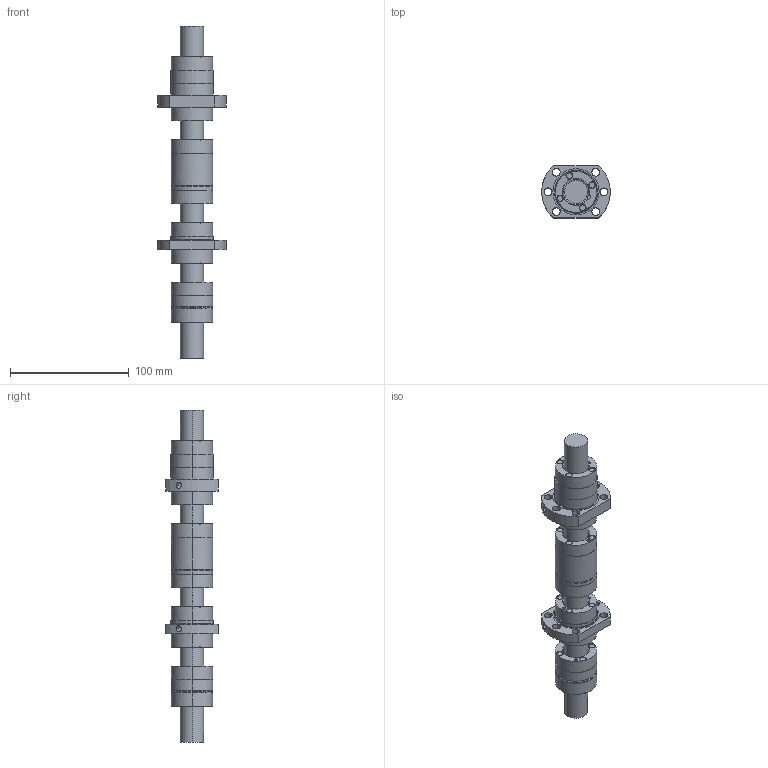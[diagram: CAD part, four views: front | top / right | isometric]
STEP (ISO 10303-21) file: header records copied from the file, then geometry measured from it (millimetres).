
FILE_DESCRIPTION(('Creo Elements/Direct Modeling STEP Export'),'2;1');
FILE_NAME('HSB-KGT-M-2020RH-4g.stp','2015-05-08T 9:23:00',(''),(''),'Creo Elements/Direct Modeling STEP processor for AP214 (Solid Model)','Creo Elements/Direct Modeling 18.1F 24-Jul-2014 (C) Parametric Technology GmbH','');
FILE_SCHEMA(('AUTOMOTIVE_DESIGN { 1 0 10303 214 1 1 1 1 }'));
Length unit declared in the file: millimetre
Products named in the file (5): HSB-KGM-F-2020RH-4g_22669; HSB-KGM-FL-2020RH-4g_22671; HSB-KGM-M-2020RH-4g_20282; HSB-KGM-ML-2020RH-4g_20301; HSB-KGS-2020RH-4g-T7_23873
Bounding box: 58 x 44 x 280 mm (x, y, z)
Volume: 217247.2 mm3; surface area: 62133.8 mm2
Topology: 5 solids, 5 shells, 380 faces, 1126 edges, 780 vertices
Faces by surface type: cylinder 188, cone 104, plane 77, torus 11
Entity records: 20660 total; most frequent: CARTESIAN_POINT 8393, ORIENTED_EDGE 2244, DIRECTION 1634, EDGE_CURVE 1122, VERTEX_POINT 780, AXIS2_PLACEMENT_3D 661, EDGE_LOOP 444, COLOUR_RGB 385
